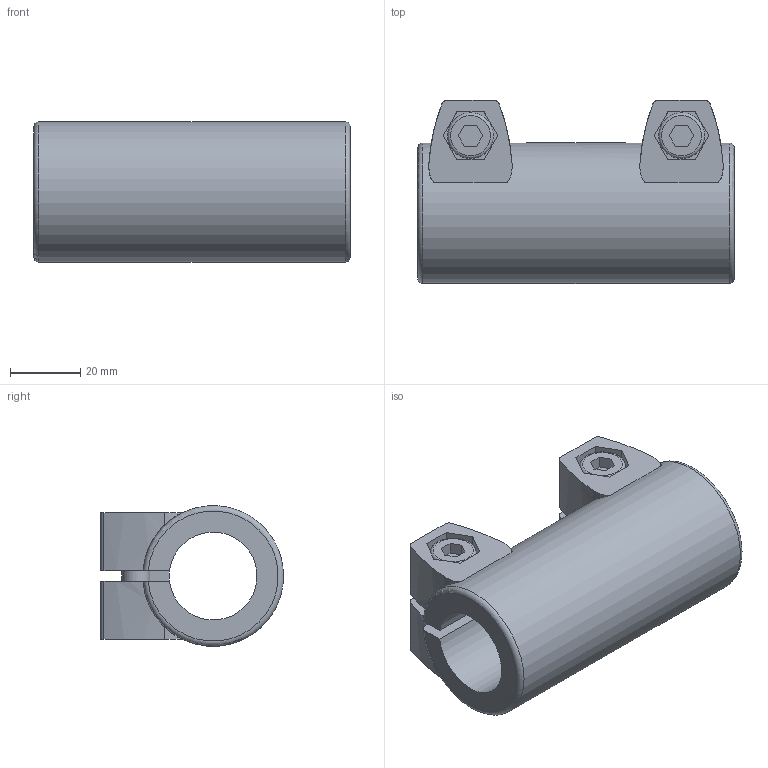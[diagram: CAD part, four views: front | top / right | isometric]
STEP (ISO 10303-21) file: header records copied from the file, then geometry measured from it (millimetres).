
FILE_DESCRIPTION( ( 'STEP AP203' ), '1' );
FILE_NAME( 'C:/Temp/Ganter_Step_05_03_2020/data/3_7/gn242/gn242_2/Tube connector GN 242-B25-B25-2-BL.stp', '2020-03-12T14:40:06', ( 'License CC BY-ND 4.0' ), ( 'CADENAS' ), ' ', 'PARTsolutions', ' ' );
FILE_SCHEMA( ( 'CONFIG_CONTROL_DESIGN' ) );
Length unit declared in the file: millimetre
Products named in the file (1): _Tube connector GN 242-B25-B25-2-BL
Bounding box: 90 x 52 x 39.96 mm (x, y, z)
Volume: 86835.9 mm3; surface area: 27384.9 mm2
Topology: 1 solids, 1 shells, 164 faces, 446 edges, 294 vertices
Faces by surface type: plane 84, cylinder 58, cone 14, torus 8
Full cylindrical faces by diameter (mm): 8 x2, 12 x2, 13 x2, 25 x1, 40 x1
Entity records: 5446 total; most frequent: CARTESIAN_POINT 1423, ORIENTED_EDGE 844, DIRECTION 782, EDGE_CURVE 422, VERTEX_POINT 288, AXIS2_PLACEMENT_3D 277, LINE 228, VECTOR 228
